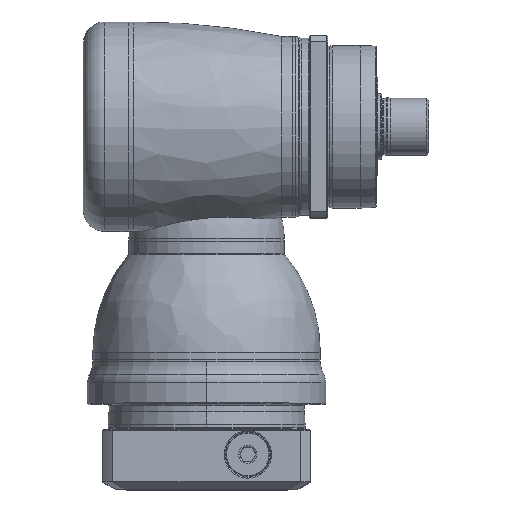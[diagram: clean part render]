
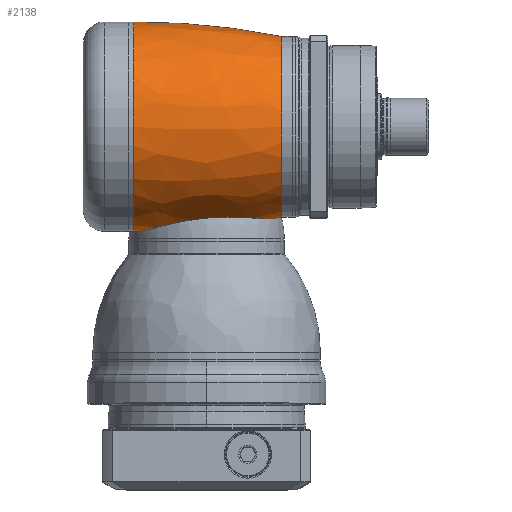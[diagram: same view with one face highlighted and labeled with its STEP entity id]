
A CAD part, top view. The second image highlights one B-rep face of the part: STEP entity #2138.
In plain terms, the highlighted free-form (B-spline) face has degree [3, 3] with [7, 4] control points.
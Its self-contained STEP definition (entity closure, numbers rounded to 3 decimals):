
#543=CARTESIAN_POINT('',(-38.133,341.993,
0.));
#544=DIRECTION('',(0.,0.,-1.));
#545=DIRECTION('',(0.199,-0.98,0.));
#546=AXIS2_PLACEMENT_3D('',#543,#544,#545);
#553=CARTESIAN_POINT('',(-38.133,-341.993,
0.));
#554=DIRECTION('',(0.,0.,1.));
#555=DIRECTION('',(0.199,0.98,0.));
#556=AXIS2_PLACEMENT_3D('',#553,#554,#555);
#578=CARTESIAN_POINT('',(-40.5,57.997,0.555));
#580=CARTESIAN_POINT('',(-40.5,0.,0.));
#581=DIRECTION('',(1.,0.,0.));
#582=DIRECTION('',(0.,1.,0.01));
#583=AXIS2_PLACEMENT_3D('',#580,#581,#582);
#601=CARTESIAN_POINT('',(-40.5,0.,0.));
#602=DIRECTION('',(-1.,0.,0.));
#603=DIRECTION('',(0.,-0.999,-0.054));
#604=AXIS2_PLACEMENT_3D('',#601,#602,#603);
#655=CARTESIAN_POINT('',(-40.249,58.001,
0.));
#656=CARTESIAN_POINT('',(-40.249,58.001,0.069));
#657=CARTESIAN_POINT('',(-40.268,58.001,0.209));
#658=CARTESIAN_POINT('',(-40.356,58.,0.402));
#659=CARTESIAN_POINT('',(-40.448,57.998,0.509));
#660=CARTESIAN_POINT('',(-40.5,57.997,0.555));
#662=CARTESIAN_POINT('',(41.5,0.,0.));
#663=DIRECTION('',(1.,0.,0.));
#664=DIRECTION('',(0.,1.,0.));
#665=AXIS2_PLACEMENT_3D('',#662,#663,#664);
#667=CARTESIAN_POINT('',(37.853,-50.723,
0.));
#668=CARTESIAN_POINT('',(37.201,-50.849,1.535));
#669=CARTESIAN_POINT('',(35.679,-51.003,4.541));
#670=CARTESIAN_POINT('',(32.646,-50.982,8.913));
#671=CARTESIAN_POINT('',(28.982,-50.777,12.881));
#672=CARTESIAN_POINT('',(24.797,-50.487,16.34));
#673=CARTESIAN_POINT('',(20.137,-50.203,19.257));
#674=CARTESIAN_POINT('',(15.063,-50.016,21.589));
#675=CARTESIAN_POINT('',(9.633,-50.004,23.29));
#676=CARTESIAN_POINT('',(3.914,-50.231,24.313));
#677=CARTESIAN_POINT('',(-2.014,-50.741,24.595));
#678=CARTESIAN_POINT('',(-7.959,-51.534,24.088));
#679=CARTESIAN_POINT('',(-13.747,-52.561,22.787));
#680=CARTESIAN_POINT('',(-19.259,-53.743,20.707));
#681=CARTESIAN_POINT('',(-24.358,-54.972,17.898));
#682=CARTESIAN_POINT('',(-28.918,-56.121,14.452));
#683=CARTESIAN_POINT('',(-32.85,-57.073,10.493));
#684=CARTESIAN_POINT('',(-36.11,-57.736,6.162));
#685=CARTESIAN_POINT('',(-38.693,-58.049,1.578));
#686=CARTESIAN_POINT('',(-39.967,-58.004,
-1.557));
#687=CARTESIAN_POINT('',(-40.5,-57.915,-3.141));
#773=CARTESIAN_POINT('',(-40.5,-57.915,-3.141));
#788=CARTESIAN_POINT('',(41.5,50.,0.));
#790=VERTEX_POINT('',#788);
#792=CARTESIAN_POINT('',(41.5,-50.,0.));
#794=VERTEX_POINT('',#792);
#795=CARTESIAN_POINT('',(37.853,-50.723,
0.));
#796=VERTEX_POINT('',#795);
#797=CARTESIAN_POINT('',(-40.5,-58.,0.));
#799=VERTEX_POINT('',#797);
#826=VERTEX_POINT('',#773);
#856=VERTEX_POINT('',#578);
#861=VERTEX_POINT('',#655);
#2098=CARTESIAN_POINT('',(-42.151,57.868,
-3.704));
#2099=CARTESIAN_POINT('',(-13.485,58.156,
-3.722));
#2100=CARTESIAN_POINT('',(15.047,55.378,-3.544));
#2101=CARTESIAN_POINT('',(43.117,49.567,-3.172));
#2102=CARTESIAN_POINT('',(-42.151,60.198,32.694));
#2103=CARTESIAN_POINT('',(-13.485,60.497,32.856));
#2104=CARTESIAN_POINT('',(15.047,57.607,31.287));
#2105=CARTESIAN_POINT('',(43.117,51.562,28.003));
#2106=CARTESIAN_POINT('',(-42.151,34.888,58.954));
#2107=CARTESIAN_POINT('',(-13.485,35.061,59.246));
#2108=CARTESIAN_POINT('',(15.047,33.386,56.416));
#2109=CARTESIAN_POINT('',(43.117,29.883,50.496));
#2110=CARTESIAN_POINT('',(-42.151,-1.571,
57.966));
#2111=CARTESIAN_POINT('',(-13.485,-1.579,
58.253));
#2112=CARTESIAN_POINT('',(15.047,-1.503,55.471));
#2113=CARTESIAN_POINT('',(43.117,-1.346,49.65));
#2114=CARTESIAN_POINT('',(-42.151,-38.029,
56.977));
#2115=CARTESIAN_POINT('',(-13.485,-38.218,
57.26));
#2116=CARTESIAN_POINT('',(15.047,-36.393,54.525));
#2117=CARTESIAN_POINT('',(43.117,-32.574,48.804));
#2118=CARTESIAN_POINT('',(-42.151,-61.88,
29.385));
#2119=CARTESIAN_POINT('',(-13.485,-62.188,
29.531));
#2120=CARTESIAN_POINT('',(15.047,-59.217,28.121));
#2121=CARTESIAN_POINT('',(43.117,-53.003,25.17));
#2122=CARTESIAN_POINT('',(-42.151,-57.583,
-6.833));
#2123=CARTESIAN_POINT('',(-13.485,-57.869,
-6.866));
#2124=CARTESIAN_POINT('',(15.047,-55.105,
-6.538));
#2125=CARTESIAN_POINT('',(43.117,-49.322,
-5.852));
#2126=(BOUNDED_SURFACE()B_SPLINE_SURFACE(3,3,((#2098,#2099,#2100,#2101),(#2102,
#2103,#2104,#2105),(#2106,#2107,#2108,#2109),(#2110,#2111,#2112,#2113),(#2114,
#2115,#2116,#2117),(#2118,#2119,#2120,#2121),(#2122,#2123,#2124,#2125)),
.UNSPECIFIED.,.F.,.F.,.F.)B_SPLINE_SURFACE_WITH_KNOTS((4,3,4),(4,4),(0.,1.,
2.),(0.,1.),.UNSPECIFIED.)GEOMETRIC_REPRESENTATION_ITEM()RATIONAL_B_SPLINE_SURFACE(((1.198,1.193,1.193,1.198),(
0.938,0.934,0.934,0.938),(
0.938,0.934,0.934,0.938),(
1.198,1.193,1.193,1.198),(
0.938,0.934,0.934,0.938),(
0.938,0.934,0.934,0.938),(
1.198,1.193,1.193,1.198)))REPRESENTATION_ITEM('')SURFACE());
#2127=ORIENTED_EDGE('',*,*,#1987,.F.);
#2128=ORIENTED_EDGE('',*,*,#1968,.F.);
#2130=ORIENTED_EDGE('',*,*,#2129,.T.);
#2131=ORIENTED_EDGE('',*,*,#1964,.T.);
#2133=ORIENTED_EDGE('',*,*,#2132,.T.);
#2134=ORIENTED_EDGE('',*,*,#2034,.T.);
#2135=ORIENTED_EDGE('',*,*,#2000,.F.);
#2136=EDGE_LOOP('',(#2127,#2128,#2130,#2131,#2133,#2134,#2135));
#2137=FACE_OUTER_BOUND('',#2136,.F.);
#2138=ADVANCED_FACE('',(#2137),#2126,.T.);
#547=CIRCLE('',#546,400.);
#557=CIRCLE('',#556,400.);
#584=CIRCLE('',#583,58.);
#605=CIRCLE('',#604,58.);
#661=B_SPLINE_CURVE_WITH_KNOTS('',3,(#655,#656,#657,#658,#659,#660),
.UNSPECIFIED.,.F.,.F.,(4,1,1,4),(0.,0.333,0.667,1.),
.UNSPECIFIED.);
#666=CIRCLE('',#665,50.);
#688=B_SPLINE_CURVE_WITH_KNOTS('',3,(#667,#668,#669,#670,#671,#672,#673,#674,
#675,#676,#677,#678,#679,#680,#681,#682,#683,#684,#685,#686,#687),.UNSPECIFIED.,
.F.,.F.,(4,1,1,1,1,1,1,1,1,1,1,1,1,1,1,1,1,1,4),(0.,0.056,
0.111,0.167,0.222,0.278,
0.333,0.389,0.444,0.5,0.556,
0.611,0.667,0.722,0.778,
0.833,0.889,0.944,1.),.UNSPECIFIED.);
#1964=EDGE_CURVE('',#794,#796,#547,.T.);
#1968=EDGE_CURVE('',#790,#861,#557,.T.);
#1987=EDGE_CURVE('',#861,#856,#661,.T.);
#2000=EDGE_CURVE('',#856,#799,#584,.T.);
#2034=EDGE_CURVE('',#826,#799,#605,.T.);
#2129=EDGE_CURVE('',#790,#794,#666,.T.);
#2132=EDGE_CURVE('',#796,#826,#688,.T.);
